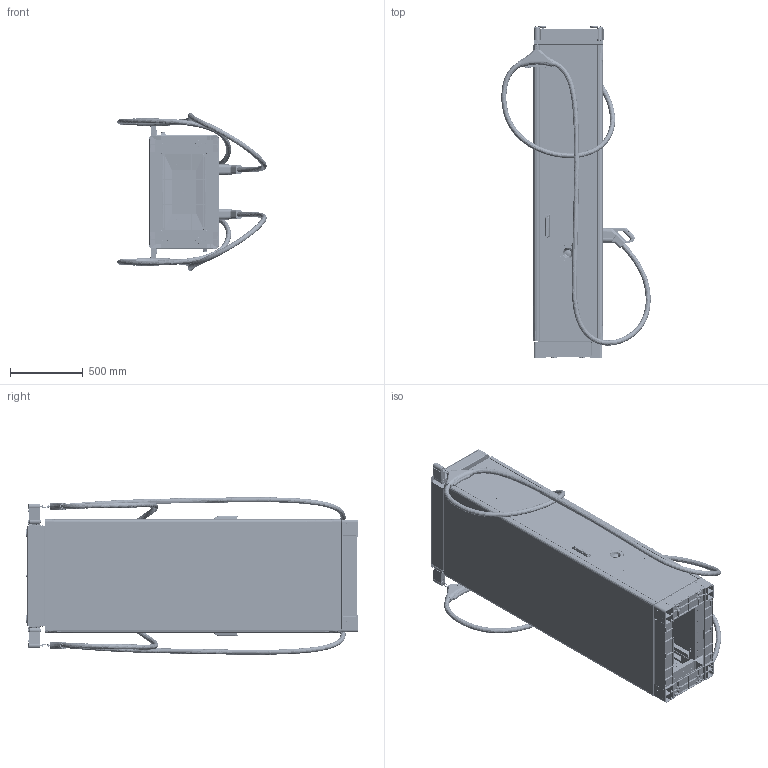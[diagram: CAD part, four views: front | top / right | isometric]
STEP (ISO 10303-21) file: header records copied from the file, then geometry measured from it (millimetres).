
FILE_DESCRIPTION((''),'2;1');
FILE_NAME('AUT41180821_ASM','2026-06-02T16:24:11',('X23004'),(''),'CREO PARAMETRIC BY PTC INC, 2019080','CREO PARAMETRIC BY PTC INC, 2019080','');
FILE_SCHEMA(('CONFIG_CONTROL_DESIGN','GEOMETRIC_VALIDATION_PROPERTIES_MIM'));
Products named in the file (299): AUT81160638; AUT81160638_ASM; AUT61170495; FHS-M5-18; AUT61170495_ASM; AUT61170496; FHS-M4-15; AUT61170496_ASM; AUT81160629; AUT81160629_ASM; AUT81218528; AUT81350863; GB_T825-88_M20_SL; AUT81370806; AUT81471567; AUT81471568; AUT61181179_ASM; AUT81171034; AUT81171035; AUT81171035_ASM; AUT81171033_ASM; AUT81171038; AUT81171037_ASM; AUT61181178_ASM; AUT81193841; M4-10-ZH; FHS-M4-20; AUT81193841_ASM; ______10740; ______11036; ______11403; ______11880; ______12247; ______12899; ______13408; ______13917; ______14426; ______14935; ______15444; ______16127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
Assembly tree (630 placements, depth 9):
  AUT41180821_ASM
    AUT41180816_ASM
      AUT61181178_ASM
        AUT61181179_ASM
          AUT81160638_ASM
            AUT81160638
          AUT61170495_ASM  x2
            AUT61170495
            FHS-M5-18
          AUT61170496_ASM  x2
            AUT61170496
            FHS-M4-15
            FHS-M5-18
          AUT81160629_ASM
            AUT81160629
          AUT81218528  x2
          AUT81350863  x4
          GB_T825-88_M20_SL  x4
          AUT81370806  x4
          AUT81471567  x2
          AUT81471568  x2
        AUT81171033_ASM  x2
          AUT81171034
          AUT81171035_ASM
            AUT81171035
        AUT81171037_ASM  x2
          AUT81171038
          AUT81171035_ASM
            AUT81171035
      AUT61181176_ASM
        AUT81182400_ASM
          AUT81193841_ASM
            AUT81193841
            M4-10-ZH  x71
            FHS-M4-20  x3
          ______10740
          ______11036
          ______11403
          ______11880
          ______12247
          ______12899
          ______13408
          ______13917
          ______14426
          ______14935
          ______15444
          ______16127
          ______16479
          ______17210
          ______17608
        AUT81217864_ASM
          MS840ZXX140019_ASM
            MS840-1-F_1_30001_ASM_1_WG1_ASM
              MS840-1-F_1_20001_ASM_1_WG1_ASM
                MS83920180227_1_20001_1_WG1
                HM4X8_20001_1_WG1
                MS846-F_1_20001_1_WG1
                MS807-1_1_200_1_WG1
                TC01_1_20001_ASM_1_ASM
                  TC01-1-SOLID1_1_200_1-35482
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Bounding box: 1028.33 x 2285.8 x 1085.37 mm (x, y, z)
Volume: 57968038.8 mm3; surface area: 30472040.3 mm2
Topology: 732 solids, 757 shells, 46038 faces, 119739 edges, 76776 vertices
Faces by surface type: plane 21655, cylinder 15425, cone 3432, bspline 2933, torus 1643, sphere 460, extrusion 430, revolution 60
Entity records: 1135809 total; most frequent: CARTESIAN_POINT 368987, ORIENTED_EDGE 130570, DIRECTION 124753, EDGE_CURVE 65285, AXIS2_PLACEMENT_3D 42967, VERTEX_POINT 42066, PRESENTATION_STYLE_ASSIGNMENT 39863, STYLED_ITEM 39186
